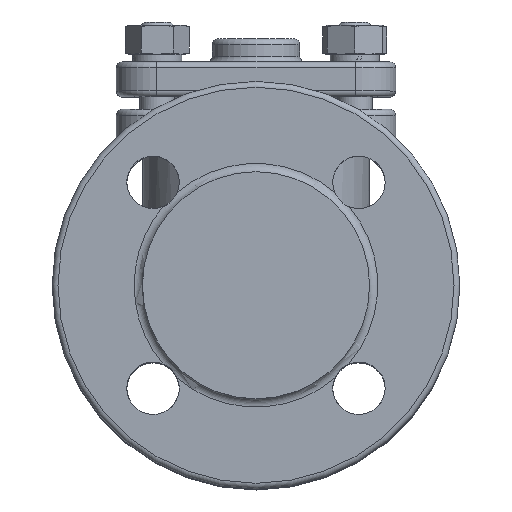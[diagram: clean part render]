
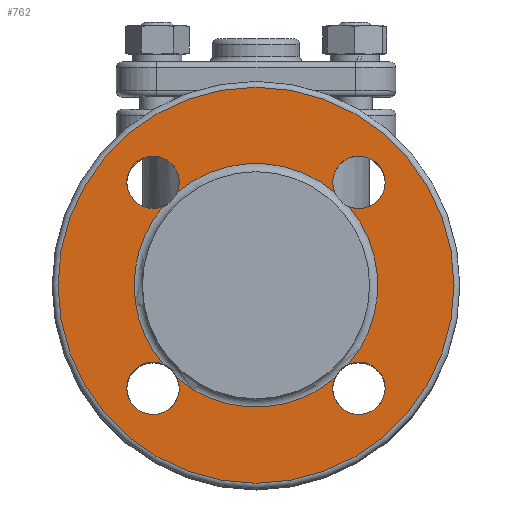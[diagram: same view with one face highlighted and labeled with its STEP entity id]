
A CAD part, top view. The second image highlights one B-rep face of the part: STEP entity #762.
In plain terms, the highlighted planar face has unit normal (0, 0, 1).
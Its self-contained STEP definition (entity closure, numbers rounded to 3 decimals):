
#243=PLANE('',#4279);
#555=FACE_BOUND('',#1261,.T.);
#556=FACE_BOUND('',#1262,.T.);
#762=ADVANCED_FACE('',(#555,#556),#243,.F.);
#1261=EDGE_LOOP('',(#2000));
#1262=EDGE_LOOP('',(#2001,#2002,#2003,#2004,#2005,#2006,#2007,#2008));
#1645=CIRCLE('',#4270,68.);
#1646=CIRCLE('',#4271,9.);
#1647=CIRCLE('',#4272,41.828);
#1648=CIRCLE('',#4273,9.);
#1649=CIRCLE('',#4274,41.828);
#1650=CIRCLE('',#4275,9.);
#1651=CIRCLE('',#4276,41.828);
#1652=CIRCLE('',#4277,9.);
#1653=CIRCLE('',#4278,41.828);
#2000=ORIENTED_EDGE('',*,*,#3539,.T.);
#2001=ORIENTED_EDGE('',*,*,#3540,.F.);
#2002=ORIENTED_EDGE('',*,*,#3541,.T.);
#2003=ORIENTED_EDGE('',*,*,#3542,.T.);
#2004=ORIENTED_EDGE('',*,*,#3543,.T.);
#2005=ORIENTED_EDGE('',*,*,#3544,.F.);
#2006=ORIENTED_EDGE('',*,*,#3545,.T.);
#2007=ORIENTED_EDGE('',*,*,#3546,.T.);
#2008=ORIENTED_EDGE('',*,*,#3547,.T.);
#3151=VERTEX_POINT('',#8789);
#3152=VERTEX_POINT('',#8791);
#3153=VERTEX_POINT('',#8792);
#3154=VERTEX_POINT('',#8794);
#3155=VERTEX_POINT('',#8796);
#3156=VERTEX_POINT('',#8798);
#3157=VERTEX_POINT('',#8800);
#3158=VERTEX_POINT('',#8802);
#3159=VERTEX_POINT('',#8804);
#3539=EDGE_CURVE('',#3151,#3151,#1645,.T.);
#3540=EDGE_CURVE('',#3152,#3153,#1646,.T.);
#3541=EDGE_CURVE('',#3152,#3154,#1647,.T.);
#3542=EDGE_CURVE('',#3154,#3155,#1648,.T.);
#3543=EDGE_CURVE('',#3155,#3156,#1649,.T.);
#3544=EDGE_CURVE('',#3157,#3156,#1650,.T.);
#3545=EDGE_CURVE('',#3157,#3158,#1651,.T.);
#3546=EDGE_CURVE('',#3158,#3159,#1652,.T.);
#3547=EDGE_CURVE('',#3159,#3153,#1653,.T.);
#4270=AXIS2_PLACEMENT_3D('',#8788,#4903,#4904);
#4271=AXIS2_PLACEMENT_3D('',#8790,#4905,#4906);
#4272=AXIS2_PLACEMENT_3D('',#8793,#4907,#4908);
#4273=AXIS2_PLACEMENT_3D('',#8795,#4909,#4910);
#4274=AXIS2_PLACEMENT_3D('',#8797,#4911,#4912);
#4275=AXIS2_PLACEMENT_3D('',#8799,#4913,#4914);
#4276=AXIS2_PLACEMENT_3D('',#8801,#4915,#4916);
#4277=AXIS2_PLACEMENT_3D('',#8803,#4917,#4918);
#4278=AXIS2_PLACEMENT_3D('',#8805,#4919,#4920);
#4279=AXIS2_PLACEMENT_3D('',#8806,#4921,#4922);
#4903=DIRECTION('',(0.,0.,1.));
#4904=DIRECTION('',(-1.,0.,0.));
#4905=DIRECTION('',(0.,0.,1.));
#4906=DIRECTION('',(-1.,0.,0.));
#4907=DIRECTION('',(0.,0.,-1.));
#4908=DIRECTION('',(-1.,0.,0.));
#4909=DIRECTION('',(0.,0.,-1.));
#4910=DIRECTION('',(-1.,0.,0.));
#4911=DIRECTION('',(0.,0.,-1.));
#4912=DIRECTION('',(-1.,0.,0.));
#4913=DIRECTION('',(0.,0.,1.));
#4914=DIRECTION('',(-1.,0.,0.));
#4915=DIRECTION('',(0.,0.,-1.));
#4916=DIRECTION('',(-1.,0.,0.));
#4917=DIRECTION('',(0.,0.,-1.));
#4918=DIRECTION('',(-1.,0.,0.));
#4919=DIRECTION('',(0.,0.,-1.));
#4920=DIRECTION('',(-1.,0.,0.));
#4921=DIRECTION('',(0.,0.,-1.));
#4922=DIRECTION('',(-1.,0.,0.));
#8788=CARTESIAN_POINT('',(0.,0.,88.));
#8789=CARTESIAN_POINT('',(-68.,0.,88.));
#8790=CARTESIAN_POINT('',(-35.355,35.355,88.));
#8791=CARTESIAN_POINT('',(-27.039,31.914,88.));
#8792=CARTESIAN_POINT('',(-31.914,27.039,88.));
#8793=CARTESIAN_POINT('',(0.,0.,88.));
#8794=CARTESIAN_POINT('',(27.039,31.914,88.));
#8795=CARTESIAN_POINT('',(35.355,35.355,88.));
#8796=CARTESIAN_POINT('',(31.914,27.039,88.));
#8797=CARTESIAN_POINT('',(0.,0.,88.));
#8798=CARTESIAN_POINT('',(31.914,-27.039,88.));
#8799=CARTESIAN_POINT('',(35.355,-35.355,88.));
#8800=CARTESIAN_POINT('',(27.039,-31.914,88.));
#8801=CARTESIAN_POINT('',(0.,0.,88.));
#8802=CARTESIAN_POINT('',(-27.039,-31.914,88.));
#8803=CARTESIAN_POINT('',(-35.355,-35.355,88.));
#8804=CARTESIAN_POINT('',(-31.914,-27.039,88.));
#8805=CARTESIAN_POINT('',(0.,0.,88.));
#8806=CARTESIAN_POINT('',(0.,39.,88.));
